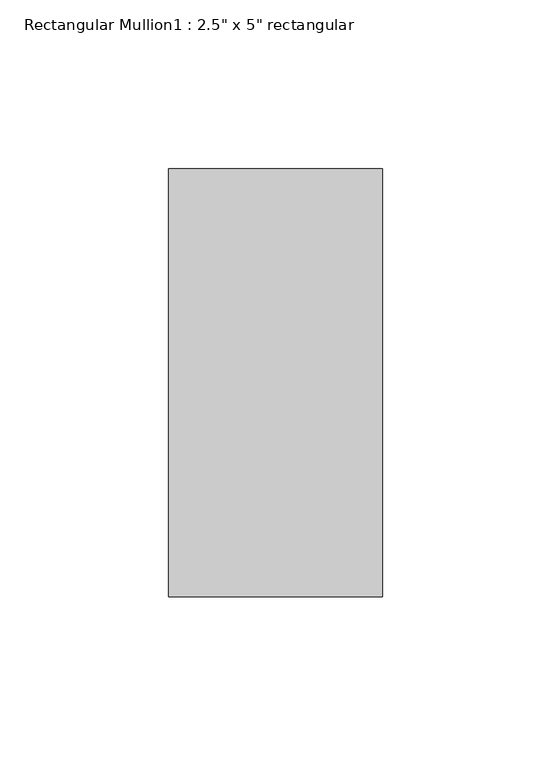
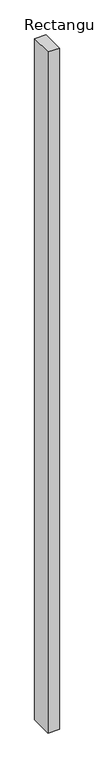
"""IFC4 building model written with IfcOpenShell, lengths in millimetres: member geometry."""

from ifc_helpers import new_model, si_unit, frame, origin, place, context, project, spatial, polyline, outline, extrude, source, transform, mapped, element, save


def member_50cd645d(model_context):
    return source(origin(), model_context, "Body", "SweptSolid", [
        extrude(outline(polyline([(0.0, 63.5), (0.0, -63.5), (-63.5, -63.5), (-63.5, 63.5), (0.0, 63.5)])), frame((0.0, 0.0, -4003.5335741), z_axis=(0.0, 0.0, 1.0), x_axis=(1.0, 0.0, 0.0)), (0.0, 0.0, 1.0), 4003.5335741),
    ])


if __name__ == "__main__":
    model = new_model("IFC4")
    model_context = context("Model", 3, world=origin())
    ifc_project = project(units=[si_unit("LENGTHUNIT", "METRE", prefix="MILLI")], contexts=[model_context])
    site = spatial("IfcSite", under=ifc_project)
    building = spatial("IfcBuilding", under=site)
    placement = place(None, origin())
    member_shape = member_50cd645d(model_context)
    element("IfcMember", 1, ObjectType="Rectangular Mullion1 : 2.5\" x 5\" rectangular", at=placement, inside=building, context=model_context, shape_type="MappedRepresentation", body=[
        mapped(member_shape, transform((0.0, 0.0, 0.0), x_axis=(1.0, 0.0, 0.0), y_axis=(0.0, 1.0, 0.0), z_axis=(0.0, 0.0, 1.0))),
    ])
    save(model, "model.ifc")
